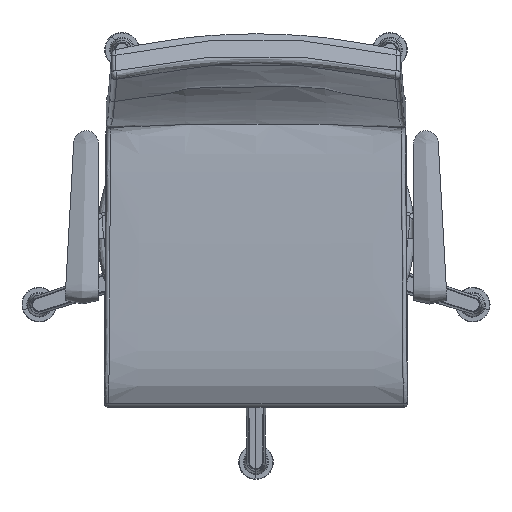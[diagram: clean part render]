
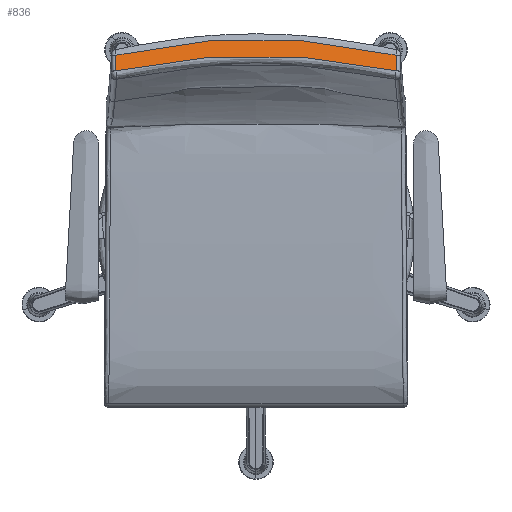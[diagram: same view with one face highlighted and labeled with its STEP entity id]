
A CAD part, top view. The second image highlights one B-rep face of the part: STEP entity #836.
In plain terms, the highlighted free-form (B-spline) face has degree [3, 1] with [9, 2] control points.
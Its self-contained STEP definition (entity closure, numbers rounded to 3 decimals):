
#836=ADVANCED_FACE('',(#1174),#5059,.T.);
#1174=FACE_OUTER_BOUND('',#1512,.T.);
#1512=EDGE_LOOP('',(#1885,#1886,#1887,#1888));
#1885=ORIENTED_EDGE('',*,*,#3431,.T.);
#1886=ORIENTED_EDGE('',*,*,#3392,.F.);
#1887=ORIENTED_EDGE('',*,*,#3421,.F.);
#1888=ORIENTED_EDGE('',*,*,#3393,.T.);
#3392=EDGE_CURVE('',#4583,#4581,#4209,.T.);
#3393=EDGE_CURVE('',#4582,#4580,#4210,.T.);
#3421=EDGE_CURVE('',#4582,#4583,#4238,.T.);
#3431=EDGE_CURVE('',#4580,#4581,#4248,.T.);
#4209=B_SPLINE_CURVE_WITH_KNOTS('',3,(#9561,#9562,#9563,#9564,#9565),
 .UNSPECIFIED.,.F.,.F.,(4,1,4),(8.486,213.024,417.563),
 .UNSPECIFIED.);
#4210=B_SPLINE_CURVE_WITH_KNOTS('',3,(#9566,#9567,#9568,#9569,#9570),
 .UNSPECIFIED.,.F.,.F.,(4,1,4),(3.618,208.316,413.014),
 .UNSPECIFIED.);
#4238=B_SPLINE_CURVE_WITH_KNOTS('',1,(#9984,#9985),.UNSPECIFIED.,.F.,.F.,
(2,2),(-1.44,22.059),.UNSPECIFIED.);
#4248=B_SPLINE_CURVE_WITH_KNOTS('',1,(#10114,#10115),.UNSPECIFIED.,.F.,
 .F.,(2,2),(-1.44,22.059),.UNSPECIFIED.);
#4580=VERTEX_POINT('',#9485);
#4581=VERTEX_POINT('',#9486);
#4582=VERTEX_POINT('',#9487);
#4583=VERTEX_POINT('',#9488);
#5059=B_SPLINE_SURFACE_WITH_KNOTS('',3,1,((#6516,#6517),(#6518,#6519),(#6520,
#6521),(#6522,#6523),(#6524,#6525),(#6526,#6527),(#6528,#6529),(#6530,#6531),
(#6532,#6533)),.UNSPECIFIED.,.F.,.F.,.F.,(4,1,1,1,1,1,4),(2,2),(-430.572,
-358.81,-287.048,-215.286,-143.524,
-71.762,0.),(0.,1.),.UNSPECIFIED.);
#6516=CARTESIAN_POINT('',(208.673,266.025,1010.037));
#6517=CARTESIAN_POINT('',(208.727,223.521,1021.412));
#6518=CARTESIAN_POINT('',(185.935,271.365,1008.607));
#6519=CARTESIAN_POINT('',(185.982,228.861,1019.983));
#6520=CARTESIAN_POINT('',(139.997,280.302,1006.216));
#6521=CARTESIAN_POINT('',(140.033,237.798,1017.591));
#6522=CARTESIAN_POINT('',(70.222,288.377,1004.054));
#6523=CARTESIAN_POINT('',(70.24,245.872,1015.43));
#6524=CARTESIAN_POINT('',(0.,291.074,1003.332));
#6525=CARTESIAN_POINT('',(0.,248.57,1014.708));
#6526=CARTESIAN_POINT('',(-70.222,288.376,1004.054));
#6527=CARTESIAN_POINT('',(-70.24,245.872,1015.43));
#6528=CARTESIAN_POINT('',(-139.997,280.302,1006.216));
#6529=CARTESIAN_POINT('',(-140.032,237.798,1017.591));
#6530=CARTESIAN_POINT('',(-185.935,271.365,1008.607));
#6531=CARTESIAN_POINT('',(-185.982,228.861,1019.983));
#6532=CARTESIAN_POINT('',(-208.673,266.025,1010.037));
#6533=CARTESIAN_POINT('',(-208.727,223.521,1021.412));
#9485=CARTESIAN_POINT('',(-202.808,257.516,1012.314));
#9486=CARTESIAN_POINT('',(-202.837,234.816,1018.389));
#9487=CARTESIAN_POINT('',(202.808,257.516,1012.314));
#9488=CARTESIAN_POINT('',(202.837,234.816,1018.389));
#9561=CARTESIAN_POINT('',(202.837,234.816,1018.389));
#9562=CARTESIAN_POINT('',(136.357,249.43,1014.478));
#9563=CARTESIAN_POINT('',(0.,264.235,1010.516));
#9564=CARTESIAN_POINT('',(-136.357,249.43,1014.478));
#9565=CARTESIAN_POINT('',(-202.837,234.816,1018.389));
#9566=CARTESIAN_POINT('',(202.808,257.516,1012.314));
#9567=CARTESIAN_POINT('',(136.463,272.913,1008.193));
#9568=CARTESIAN_POINT('',(0.,288.51,1004.019));
#9569=CARTESIAN_POINT('',(-136.463,272.913,1008.193));
#9570=CARTESIAN_POINT('',(-202.808,257.516,1012.314));
#9984=CARTESIAN_POINT('',(202.808,257.516,1012.314));
#9985=CARTESIAN_POINT('',(202.837,234.816,1018.389));
#10114=CARTESIAN_POINT('',(-202.808,257.516,1012.314));
#10115=CARTESIAN_POINT('',(-202.837,234.816,1018.389));
